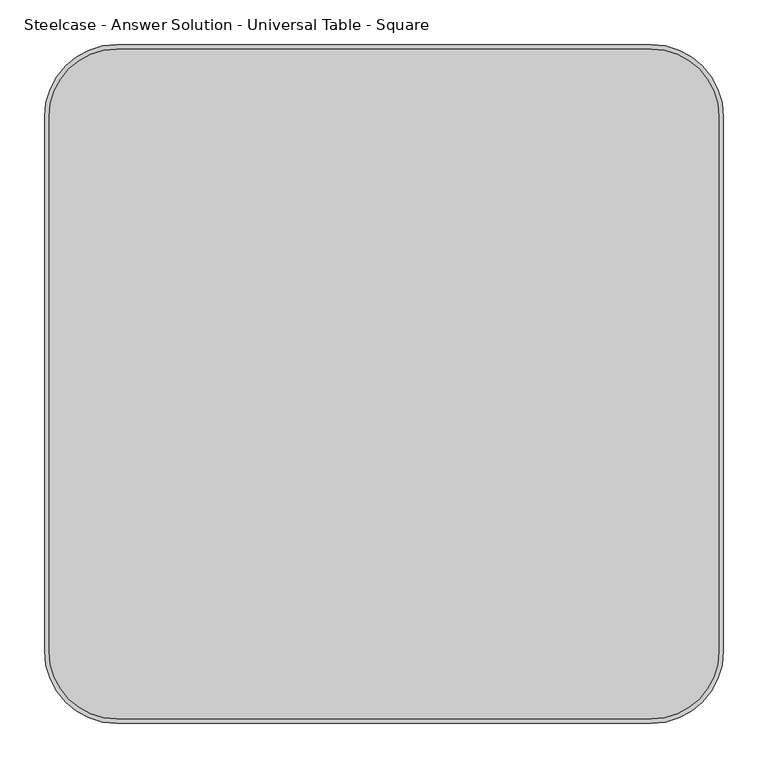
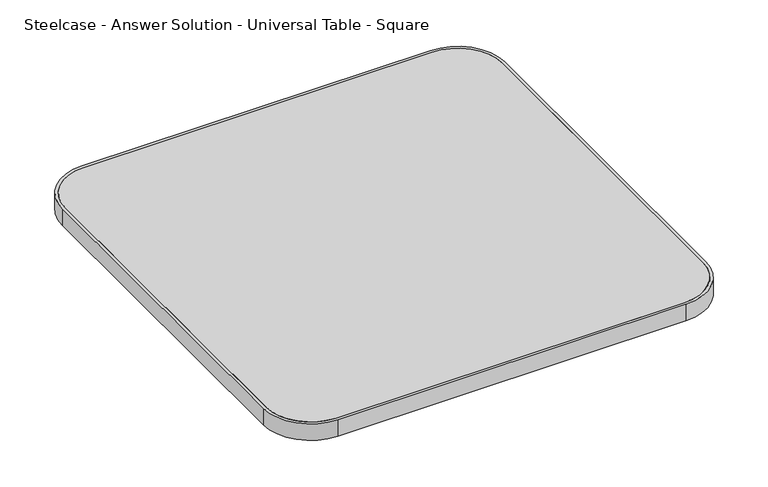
"""IFC4 building model written with IfcOpenShell, lengths in millimetres: furniture geometry, Steelcase - Answer Solution - Universal Table - Square : 30D x 30W."""

from ifc_helpers import new_model, si_unit, point, frame, frame_2d, origin, place, context, project, spatial, polyline, circle_curve, trimmed, segment, composite_curve, outline, extrude, source, transform, mapped, element, save


def steelcase_answer_solution_universal_table_square_e65031f2(model_context):
    return source(origin(), model_context, "Body", "SweptSolid", [
        extrude(outline(composite_curve([segment(polyline([(5.08, -680.72), (5.08, -81.28)]), True, "CONTINUOUS"), segment(trimmed(circle_curve(frame_2d((81.28, -81.28)), 76.2), [point((5.08, -81.28))], [point((81.28, -5.08))], False, "CARTESIAN"), True, "CONTINUOUS"), segment(polyline([(81.28, -5.08), (680.72, -5.08)]), True, "CONTINUOUS"), segment(trimmed(circle_curve(frame_2d((680.72, -81.28)), 76.2), [point((680.72, -5.08))], [point((756.92, -81.28))], False, "CARTESIAN"), True, "CONTINUOUS"), segment(polyline([(756.92, -81.28), (756.92, -680.72)]), True, "CONTINUOUS"), segment(trimmed(circle_curve(frame_2d((680.72, -680.72)), 76.2), [point((756.92, -680.72))], [point((680.72, -756.92))], False, "CARTESIAN"), True, "CONTINUOUS"), segment(polyline([(680.72, -756.92), (81.28, -756.92)]), True, "CONTINUOUS"), segment(trimmed(circle_curve(frame_2d((81.28, -680.72)), 76.2), [point((81.28, -756.92))], [point((5.08, -680.72))], False, "CARTESIAN"), True, "CONTINUOUS")], self_intersect=False)), frame((0.0, 0.0, 668.274), z_axis=(0.0, 0.0, 1.0), x_axis=(1.0, 0.0, 0.0)), (0.0, 0.0, 1.0), 30.0990349),
        extrude(outline(composite_curve([segment(polyline([(81.28, 0.0), (680.72, 0.0)]), True, "CONTINUOUS"), segment(trimmed(circle_curve(frame_2d((680.72, -81.28)), 81.28), [point((680.72, 0.0))], [point((762.0, -81.28))], False, "CARTESIAN"), True, "CONTINUOUS"), segment(polyline([(762.0, -81.28), (762.0, -680.72)]), True, "CONTINUOUS"), segment(trimmed(circle_curve(frame_2d((680.72, -680.72)), 81.28), [point((762.0, -680.72))], [point((680.72, -762.0))], False, "CARTESIAN"), True, "CONTINUOUS"), segment(polyline([(680.72, -762.0), (81.28, -762.0)]), True, "CONTINUOUS"), segment(trimmed(circle_curve(frame_2d((81.28, -680.72)), 81.28), [point((81.28, -762.0))], [point((0.0, -680.72))], False, "CARTESIAN"), True, "CONTINUOUS"), segment(polyline([(0.0, -680.72), (0.0, -81.28)]), True, "CONTINUOUS"), segment(trimmed(circle_curve(frame_2d((81.28, -81.28)), 81.28), [point((0.0, -81.28))], [point((81.28, 0.0))], False, "CARTESIAN"), True, "CONTINUOUS")], self_intersect=False), holes=[composite_curve([segment(trimmed(circle_curve(frame_2d((81.28, -81.28)), 76.2), [point((81.28, -5.08))], [point((5.08, -81.28))], True, "CARTESIAN"), True, "CONTINUOUS"), segment(polyline([(5.08, -81.28), (5.08, -680.72)]), True, "CONTINUOUS"), segment(trimmed(circle_curve(frame_2d((81.28, -680.72)), 76.2), [point((5.08, -680.72))], [point((81.28, -756.92))], True, "CARTESIAN"), True, "CONTINUOUS"), segment(polyline([(81.28, -756.92), (680.72, -756.92)]), True, "CONTINUOUS"), segment(trimmed(circle_curve(frame_2d((680.72, -680.72)), 76.2), [point((680.72, -756.92))], [point((756.92, -680.72))], True, "CARTESIAN"), True, "CONTINUOUS"), segment(polyline([(756.92, -680.72), (756.92, -81.28)]), True, "CONTINUOUS"), segment(trimmed(circle_curve(frame_2d((680.72, -81.28)), 76.2), [point((756.92, -81.28))], [point((680.72, -5.08))], True, "CARTESIAN"), True, "CONTINUOUS"), segment(polyline([(680.72, -5.08), (81.28, -5.08)]), True, "CONTINUOUS")], self_intersect=False)]), frame((0.0, 0.0, 668.274), z_axis=(0.0, 0.0, 1.0), x_axis=(1.0, 0.0, 0.0)), (0.0, 0.0, 1.0), 30.0990349),
    ])


if __name__ == "__main__":
    model = new_model("IFC4")
    model_context = context("Model", 3, world=origin())
    ifc_project = project(units=[si_unit("LENGTHUNIT", "METRE", prefix="MILLI")], contexts=[model_context])
    site = spatial("IfcSite", under=ifc_project)
    building = spatial("IfcBuilding", under=site)
    placement = place(None, origin())
    steelcase_answer_solution_universal_table_square_shape = steelcase_answer_solution_universal_table_square_e65031f2(model_context)
    element("IfcFurniture", 1, ObjectType="Steelcase - Answer Solution - Universal Table - Square : 30D x 30W", at=placement, inside=building, context=model_context, shape_type="MappedRepresentation", body=[
        mapped(steelcase_answer_solution_universal_table_square_shape, transform((0.0, 0.0, 0.0), x_axis=(1.0, 0.0, 0.0), y_axis=(0.0, 1.0, 0.0), z_axis=(0.0, 0.0, 1.0))),
    ])
    save(model, "model.ifc")
